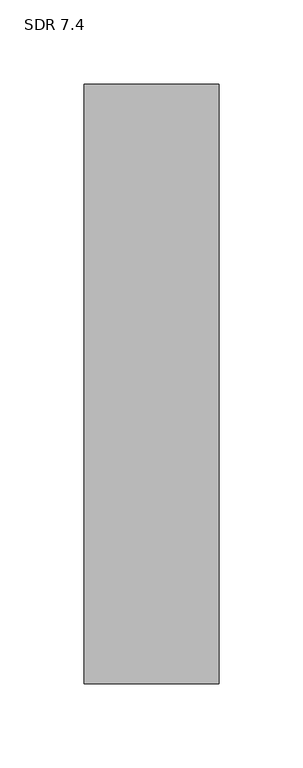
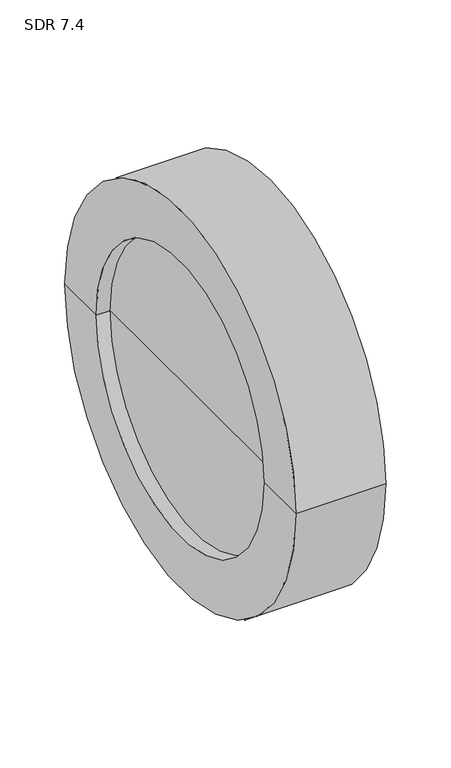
"""IFC4 building model written with IfcOpenShell, lengths in millimetres: pipe fitting geometry, Aquatherm - End Cap Butt-Weld : SDR 7.4."""

from ifc_helpers import new_model, si_unit, frame, origin, place, context, project, spatial, polyline, circle_curve, source, transform, mapped, element, save
from ifc_brep_helpers import plane_surface, cylinder_surface, revolved_surface, advanced_brep


def sdr_7_4_29240bcb(model_context):
    return source(origin(), model_context, "Body", "AdvancedBrep", [
        advanced_brep(
        [(80.01, -177.8, 0.0), (80.01, 177.8, 0.0), (80.01, 0.0, 0.0), (12.446, 0.0, 0.0), (12.446, 129.54, 0.0), (12.446, -129.54, 0.0), (0.0, 129.54, 0.0), (0.0, -129.54, 0.0), (0.0, 177.8, 0.0), (0.0, -177.8, 0.0)],
        [
            (0, 1, circle_curve(frame((80.01, 0.0, 0.0), z_axis=(1.0, 0.0, 0.0), x_axis=(0.0, 1.0, 0.0)), 177.8)),
            (1, 2),
            (2, 0),
            (1, 0, circle_curve(frame((80.01, 0.0, 0.0), z_axis=(1.0, 0.0, 0.0), x_axis=(0.0, 1.0, 0.0)), 177.8)),
            (3, 4),
            (4, 5, circle_curve(frame((12.446, 0.0, 0.0), z_axis=(-1.0, 0.0, 0.0), x_axis=(0.0, 1.0, 0.0)), 129.54)),
            (5, 3),
            (5, 4, circle_curve(frame((12.446, 0.0, 0.0), z_axis=(-1.0, 0.0, 0.0), x_axis=(0.0, 1.0, 0.0)), 129.54)),
            (4, 6),
            (6, 7, circle_curve(frame((0.0, 0.0, 0.0), z_axis=(-1.0, 0.0, 0.0), x_axis=(0.0, 1.0, 0.0)), 129.54)),
            (7, 5),
            (7, 6, circle_curve(frame((0.0, 0.0, 0.0), z_axis=(-1.0, 0.0, 0.0), x_axis=(0.0, 1.0, 0.0)), 129.54)),
            (6, 8),
            (8, 9, circle_curve(frame((0.0, 0.0, 0.0), z_axis=(-1.0, 0.0, 0.0), x_axis=(0.0, 1.0, 0.0)), 177.8)),
            (9, 7),
            (9, 8, circle_curve(frame((0.0, 0.0, 0.0), z_axis=(-1.0, 0.0, 0.0), x_axis=(0.0, 1.0, 0.0)), 177.8)),
            (8, 1),
            (0, 9),
        ],
        [
            plane_surface(frame((80.01, 0.0, 0.0), z_axis=(1.0, 0.0, 0.0), x_axis=(0.0, 1.0, 0.0))),
            plane_surface(frame((12.446, 0.0, 0.0), z_axis=(-1.0, 0.0, 0.0), x_axis=(0.0, 1.0, 0.0))),
            revolved_surface(polyline([(0.0, 129.54, 0.0), (12.445999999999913, 129.54, 0.0)]), (-1363.98, 0.0, 0.0), (-1.0, 0.0, 0.0)),
            plane_surface(frame((0.0, 0.0, 0.0), z_axis=(-1.0, 0.0, 0.0), x_axis=(0.0, 1.0, 0.0))),
            cylinder_surface(frame((-1363.98, 0.0, 0.0), z_axis=(-1.0, 0.0, 0.0), x_axis=(0.0, 1.0, 0.0)), 177.8),
        ],
        [
            (0, [[1, 2, 3]]),
            (0, [[4, -3, -2]]),
            (1, [[5, 6, 7]]),
            (1, [[-7, 8, -5]]),
            (2, [[-6, 9, 10, 11]]),
            (2, [[-8, -11, 12, -9]]),
            (3, [[-10, 13, 14, 15]]),
            (3, [[-12, -15, 16, -13]]),
            (4, [[-14, 17, -1, 18]]),
            (4, [[-16, -18, -4, -17]]),
        ],
    ),
    ])


if __name__ == "__main__":
    model = new_model("IFC4")
    model_context = context("Model", 3, world=origin())
    ifc_project = project(units=[si_unit("LENGTHUNIT", "METRE", prefix="MILLI")], contexts=[model_context])
    site = spatial("IfcSite", under=ifc_project)
    building = spatial("IfcBuilding", under=site)
    placement = place(None, origin())
    sdr_7_4_shape = sdr_7_4_29240bcb(model_context)
    element("IfcPipeFitting", 1, ObjectType="Aquatherm - End Cap Butt-Weld : SDR 7.4", at=placement, inside=building, context=model_context, shape_type="MappedRepresentation", body=[
        mapped(sdr_7_4_shape, transform((0.0, 0.0, 0.0), x_axis=(1.0, 0.0, 0.0), y_axis=(0.0, 1.0, 0.0), z_axis=(0.0, 0.0, 1.0))),
    ])
    save(model, "model.ifc")
